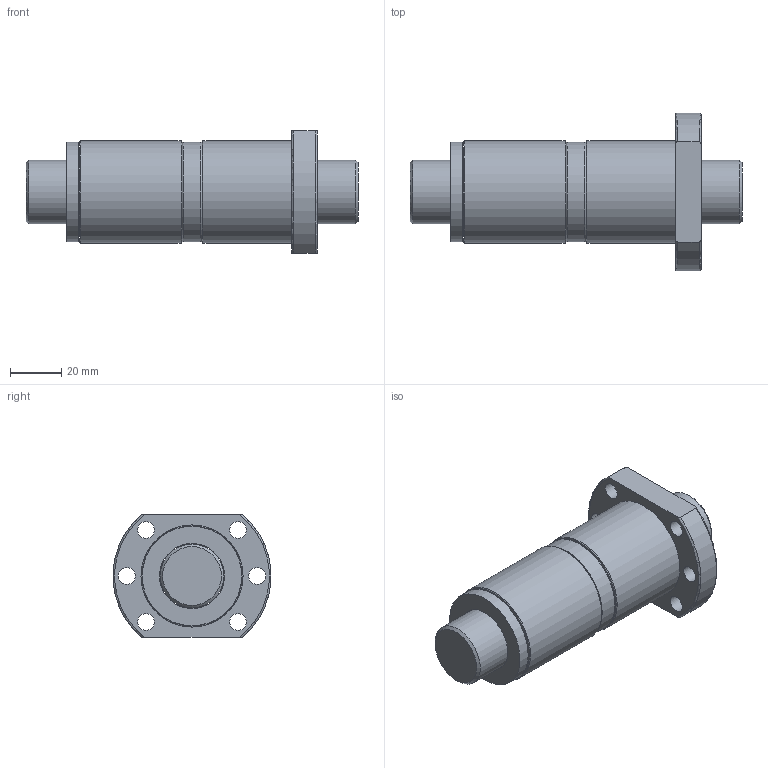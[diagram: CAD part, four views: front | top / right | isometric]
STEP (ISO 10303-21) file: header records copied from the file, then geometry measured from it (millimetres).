
FILE_DESCRIPTION(/* description */ (''),/* implementation_level */ '2;1');
FILE_NAME(/* name */ 'DFS2506',/* time_stamp */ '2007-10-26T13:37:06+08:00',/* author */ (''),/* organization */ (''),/* preprocessor_version */ 'ST-DEVELOPER v9',/* originating_system */ 'UGS - NX 3.0',/* authorisation */ '');
FILE_SCHEMA (('CONFIG_CONTROL_DESIGN'));
Length unit declared in the file: millimetre
Products named in the file (1): jaso15A4i327
Bounding box: 130 x 61.8 x 48 mm (x, y, z)
Volume: 142142.7 mm3; surface area: 43402.9 mm2
Topology: 6 solids, 6 shells, 47 faces, 97 edges, 64 vertices
Faces by surface type: cylinder 20, plane 16, torus 9, cone 2
Full cylindrical faces by diameter (mm): 6.6 x6, 25 x1, 25.5 x2, 26.72 x2, 27.5 x1, 39 x3, 40 x3
Entity records: 1338 total; most frequent: CARTESIAN_POINT 312, DIRECTION 206, ORIENTED_EDGE 134, AXIS2_PLACEMENT_3D 99, EDGE_LOOP 96, FACE_BOUND 72, EDGE_CURVE 67, VERTEX_POINT 59
